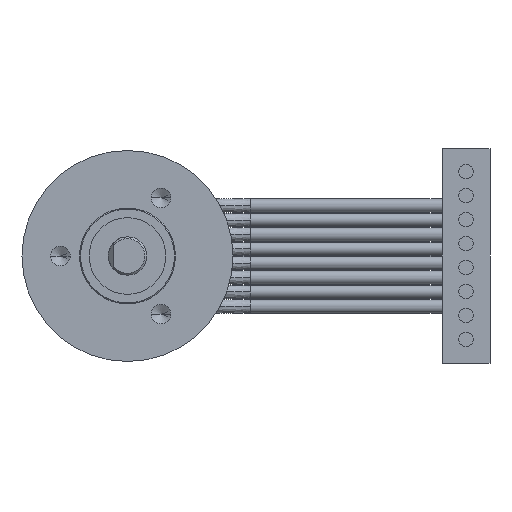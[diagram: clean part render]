
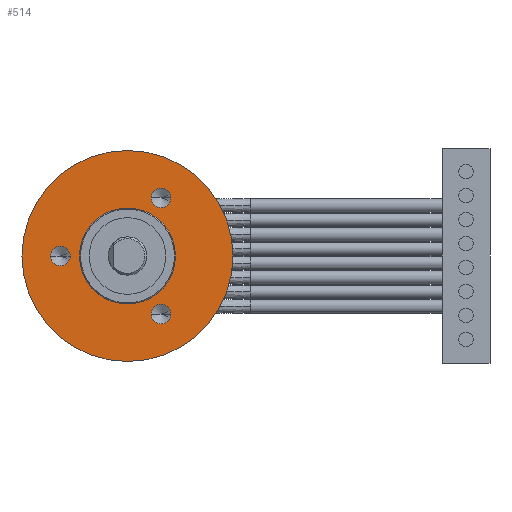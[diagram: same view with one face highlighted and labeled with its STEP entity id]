
A CAD part, left-side view. The second image highlights one B-rep face of the part: STEP entity #514.
In plain terms, the highlighted planar face has unit normal (-1, 0, 0).
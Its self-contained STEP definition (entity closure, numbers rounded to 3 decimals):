
#1 = CARTESIAN_POINT ( 'NONE',  ( 14.85, 0., 5. ) ) ;
#40 = VERTEX_POINT ( 'NONE', #2921 ) ;
#63 = FACE_OUTER_BOUND ( 'NONE', #7558, .T. ) ;
#158 = EDGE_CURVE ( 'NONE', #1365, #40, #2793, .T. ) ;
#298 = DIRECTION ( 'NONE',  ( 0., -1., 0. ) ) ;
#328 = DIRECTION ( 'NONE',  ( -1., 0., 0. ) ) ;
#364 = CARTESIAN_POINT ( 'NONE',  ( 14.85, 7., 0. ) ) ;
#408 = AXIS2_PLACEMENT_3D ( 'NONE', #2668, #2650, #2626 ) ;
#440 = VERTEX_POINT ( 'NONE', #5498 ) ;
#514 = ADVANCED_FACE ( 'NONE', ( #4918, #5103, #3336, #1724, #63 ), #4933, .F. ) ;
#610 = AXIS2_PLACEMENT_3D ( 'NONE', #3060, #4723, #4676 ) ;
#969 = CARTESIAN_POINT ( 'NONE',  ( 14.85, -2.475, -6.062 ) ) ;
#1019 = CARTESIAN_POINT ( 'NONE',  ( 14.85, -4.525, -6.062 ) ) ;
#1059 = AXIS2_PLACEMENT_3D ( 'NONE', #7711, #7652, #7628 ) ;
#1245 = CIRCLE ( 'NONE', #1580, 5. ) ;
#1294 = CIRCLE ( 'NONE', #408, 1.025 ) ;
#1365 = VERTEX_POINT ( 'NONE', #7137 ) ;
#1381 = DIRECTION ( 'NONE',  ( -1., 0., 0. ) ) ;
#1394 = CARTESIAN_POINT ( 'NONE',  ( 14.85, -3.5, 6.062 ) ) ;
#1445 = EDGE_CURVE ( 'NONE', #5025, #2973, #5421, .T. ) ;
#1563 = DIRECTION ( 'NONE',  ( 0., -1., 0. ) ) ;
#1580 = AXIS2_PLACEMENT_3D ( 'NONE', #7458, #7451, #7442 ) ;
#1724 = FACE_BOUND ( 'NONE', #6054, .T. ) ;
#1929 = AXIS2_PLACEMENT_3D ( 'NONE', #6389, #6368, #6356 ) ;
#1975 = EDGE_CURVE ( 'NONE', #6668, #440, #5900, .T. ) ;
#2035 = ORIENTED_EDGE ( 'NONE', *, *, #7007, .F. ) ;
#2262 = ORIENTED_EDGE ( 'NONE', *, *, #4280, .F. ) ;
#2287 = ORIENTED_EDGE ( 'NONE', *, *, #1445, .T. ) ;
#2309 = DIRECTION ( 'NONE',  ( 0., -1., 0. ) ) ;
#2323 = DIRECTION ( 'NONE',  ( -1., 0., 0. ) ) ;
#2335 = CARTESIAN_POINT ( 'NONE',  ( 14.85, -3.5, -6.062 ) ) ;
#2388 = CIRCLE ( 'NONE', #1059, 11. ) ;
#2480 = ORIENTED_EDGE ( 'NONE', *, *, #158, .F. ) ;
#2543 = EDGE_LOOP ( 'NONE', ( #7099, #4012 ) ) ;
#2551 = CARTESIAN_POINT ( 'NONE',  ( 14.85, 0., 11. ) ) ;
#2626 = DIRECTION ( 'NONE',  ( 0., -1., 0. ) ) ;
#2650 = DIRECTION ( 'NONE',  ( -1., 0., 0. ) ) ;
#2668 = CARTESIAN_POINT ( 'NONE',  ( 14.85, -3.5, -6.062 ) ) ;
#2793 = CIRCLE ( 'NONE', #4587, 1.025 ) ;
#2919 = VERTEX_POINT ( 'NONE', #1019 ) ;
#2921 = CARTESIAN_POINT ( 'NONE',  ( 14.85, -4.525, 6.062 ) ) ;
#2973 = VERTEX_POINT ( 'NONE', #7548 ) ;
#3041 = DIRECTION ( 'NONE',  ( 0., 0., 1. ) ) ;
#3050 = DIRECTION ( 'NONE',  ( 1., 0., 0. ) ) ;
#3060 = CARTESIAN_POINT ( 'NONE',  ( 14.85, -11.132, 11.132 ) ) ;
#3074 = CARTESIAN_POINT ( 'NONE',  ( 14.85, 0., 0. ) ) ;
#3336 = FACE_BOUND ( 'NONE', #4716, .T. ) ;
#3893 = DIRECTION ( 'NONE',  ( 0., -1., 0. ) ) ;
#3922 = DIRECTION ( 'NONE',  ( -1., 0., 0. ) ) ;
#3943 = CARTESIAN_POINT ( 'NONE',  ( 14.85, 7., 0. ) ) ;
#3995 = CIRCLE ( 'NONE', #6505, 1.025 ) ;
#4012 = ORIENTED_EDGE ( 'NONE', *, *, #5797, .F. ) ;
#4136 = EDGE_CURVE ( 'NONE', #4941, #5541, #2388, .T. ) ;
#4280 = EDGE_CURVE ( 'NONE', #40, #1365, #7156, .T. ) ;
#4373 = DIRECTION ( 'NONE',  ( 0., -1., 0. ) ) ;
#4393 = DIRECTION ( 'NONE',  ( -1., 0., 0. ) ) ;
#4525 = CARTESIAN_POINT ( 'NONE',  ( 14.85, -3.5, 6.062 ) ) ;
#4587 = AXIS2_PLACEMENT_3D ( 'NONE', #1394, #1381, #1563 ) ;
#4676 = DIRECTION ( 'NONE',  ( 0., 0., -1. ) ) ;
#4716 = EDGE_LOOP ( 'NONE', ( #2262, #2480 ) ) ;
#4723 = DIRECTION ( 'NONE',  ( 1., 0., 0. ) ) ;
#4918 = FACE_BOUND ( 'NONE', #6537, .T. ) ;
#4933 = PLANE ( 'NONE',  #610 ) ;
#4941 = VERTEX_POINT ( 'NONE', #7693 ) ;
#5025 = VERTEX_POINT ( 'NONE', #1 ) ;
#5103 = FACE_BOUND ( 'NONE', #2543, .T. ) ;
#5121 = VERTEX_POINT ( 'NONE', #969 ) ;
#5207 = CIRCLE ( 'NONE', #6801, 1.025 ) ;
#5286 = ORIENTED_EDGE ( 'NONE', *, *, #4136, .F. ) ;
#5421 = CIRCLE ( 'NONE', #1929, 5. ) ;
#5442 = EDGE_CURVE ( 'NONE', #440, #6668, #5207, .T. ) ;
#5498 = CARTESIAN_POINT ( 'NONE',  ( 14.85, 5.975, 0. ) ) ;
#5541 = VERTEX_POINT ( 'NONE', #2551 ) ;
#5587 = ORIENTED_EDGE ( 'NONE', *, *, #1975, .F. ) ;
#5797 = EDGE_CURVE ( 'NONE', #5121, #2919, #3995, .T. ) ;
#5802 = ORIENTED_EDGE ( 'NONE', *, *, #5902, .T. ) ;
#5900 = CIRCLE ( 'NONE', #6008, 1.025 ) ;
#5902 = EDGE_CURVE ( 'NONE', #2973, #5025, #1245, .T. ) ;
#5910 = ORIENTED_EDGE ( 'NONE', *, *, #5442, .F. ) ;
#6008 = AXIS2_PLACEMENT_3D ( 'NONE', #364, #328, #298 ) ;
#6054 = EDGE_LOOP ( 'NONE', ( #5910, #5587 ) ) ;
#6356 = DIRECTION ( 'NONE',  ( 0., 0., 1. ) ) ;
#6368 = DIRECTION ( 'NONE',  ( 1., 0., 0. ) ) ;
#6389 = CARTESIAN_POINT ( 'NONE',  ( 14.85, 0., 0. ) ) ;
#6505 = AXIS2_PLACEMENT_3D ( 'NONE', #2335, #2323, #2309 ) ;
#6537 = EDGE_LOOP ( 'NONE', ( #2287, #5802 ) ) ;
#6668 = VERTEX_POINT ( 'NONE', #6769 ) ;
#6769 = CARTESIAN_POINT ( 'NONE',  ( 14.85, 8.025, 0. ) ) ;
#6801 = AXIS2_PLACEMENT_3D ( 'NONE', #3943, #3922, #3893 ) ;
#7007 = EDGE_CURVE ( 'NONE', #5541, #4941, #7544, .T. ) ;
#7043 = EDGE_CURVE ( 'NONE', #2919, #5121, #1294, .T. ) ;
#7099 = ORIENTED_EDGE ( 'NONE', *, *, #7043, .F. ) ;
#7137 = CARTESIAN_POINT ( 'NONE',  ( 14.85, -2.475, 6.062 ) ) ;
#7156 = CIRCLE ( 'NONE', #7384, 1.025 ) ;
#7326 = AXIS2_PLACEMENT_3D ( 'NONE', #3074, #3050, #3041 ) ;
#7384 = AXIS2_PLACEMENT_3D ( 'NONE', #4525, #4393, #4373 ) ;
#7442 = DIRECTION ( 'NONE',  ( 0., 0., 1. ) ) ;
#7451 = DIRECTION ( 'NONE',  ( 1., 0., 0. ) ) ;
#7458 = CARTESIAN_POINT ( 'NONE',  ( 14.85, 0., 0. ) ) ;
#7544 = CIRCLE ( 'NONE', #7326, 11. ) ;
#7548 = CARTESIAN_POINT ( 'NONE',  ( 14.85, 0., -5. ) ) ;
#7558 = EDGE_LOOP ( 'NONE', ( #2035, #5286 ) ) ;
#7628 = DIRECTION ( 'NONE',  ( 0., 0., 1. ) ) ;
#7652 = DIRECTION ( 'NONE',  ( 1., 0., 0. ) ) ;
#7693 = CARTESIAN_POINT ( 'NONE',  ( 14.85, 0., -11. ) ) ;
#7711 = CARTESIAN_POINT ( 'NONE',  ( 14.85, 0., 0. ) ) ;
